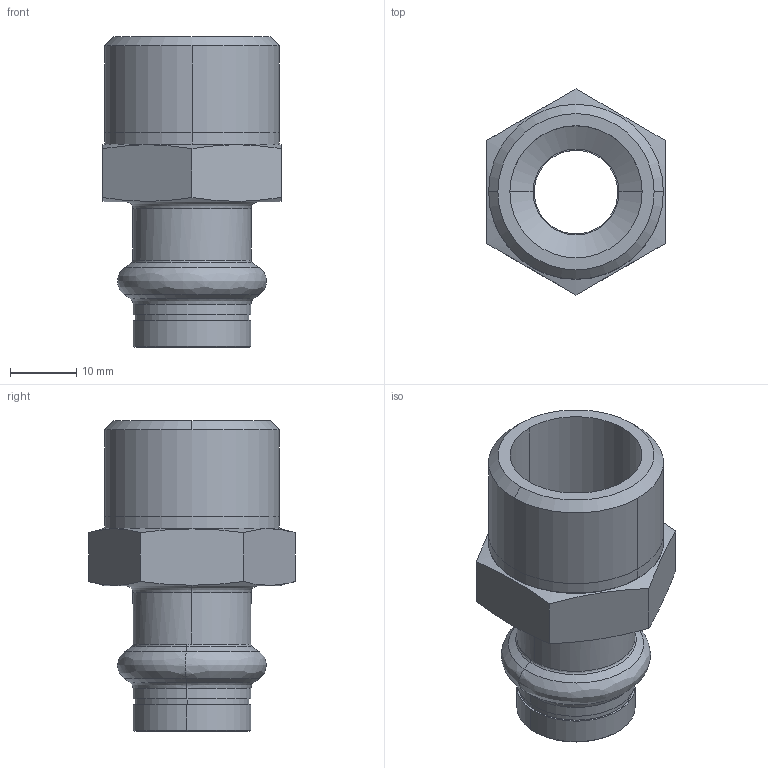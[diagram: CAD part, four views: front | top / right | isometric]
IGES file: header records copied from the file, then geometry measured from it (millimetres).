
Start section: Elysium IGES Interface
Global section: file name: C:\Users\Wallenburg\Desktop\3d modellen sudo\S-Pr VP\SP6243GV\6243GVW1534.igs; native system: CoCreate Modeling 17.00A  17-Jun-2010; preprocessor: CoCreate IGES_3D V2.2; author: Unknown; organization: Unknown; date: 20130124.133454; units: millimetre
Bounding box: 27 x 31.18 x 47 mm (x, y, z)
Volume: 9902.1 mm3; surface area: 6931.3 mm2
Topology: 1 solids, 1 shells, 63 faces, 146 edges, 90 vertices
Faces by surface type: bspline 63
